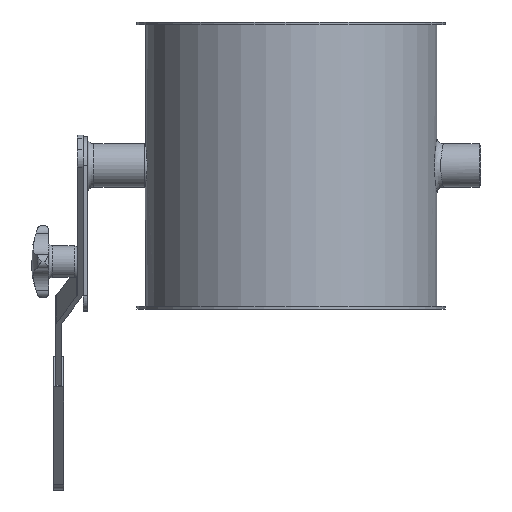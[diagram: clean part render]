
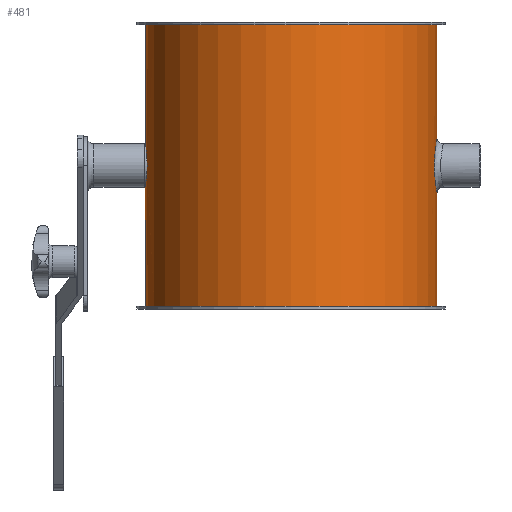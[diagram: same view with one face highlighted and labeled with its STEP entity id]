
A CAD part, front view. The second image highlights one B-rep face of the part: STEP entity #481.
In plain terms, the highlighted cylindrical face has radius 101.5 mm (diameter 203 mm), a full revolution.
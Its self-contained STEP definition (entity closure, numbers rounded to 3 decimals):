
#344=CARTESIAN_POINT('',(99.768,18.672,100.));
#345=VERTEX_POINT('',#344);
#355=CARTESIAN_POINT('',(99.768,18.673,100.));
#356=CARTESIAN_POINT('',(99.768,18.673,100.));
#357=CARTESIAN_POINT('',(99.768,18.673,100.));
#358=CARTESIAN_POINT('',(99.768,18.673,100.));
#359=CARTESIAN_POINT('',(99.768,18.672,101.09));
#360=CARTESIAN_POINT('',(99.801,18.496,103.28));
#361=CARTESIAN_POINT('',(99.929,17.798,106.104));
#362=CARTESIAN_POINT('',(100.228,16.072,110.479));
#363=CARTESIAN_POINT('',(100.61,13.622,113.698));
#364=CARTESIAN_POINT('',(101.108,9.17,117.206));
#365=CARTESIAN_POINT('',(101.341,6.255,118.583));
#366=CARTESIAN_POINT('',(101.502,1.788,119.516));
#367=CARTESIAN_POINT('',(101.518,-1.034,119.604));
#368=CARTESIAN_POINT('',(101.36,-6.22,118.692));
#369=CARTESIAN_POINT('',(100.86,-12.03,115.771));
#370=CARTESIAN_POINT('',(100.116,-16.783,109.563));
#371=CARTESIAN_POINT('',(99.756,-18.738,102.978));
#372=CARTESIAN_POINT('',(99.755,-18.743,98.787));
#373=CARTESIAN_POINT('',(99.841,-18.276,95.907));
#374=CARTESIAN_POINT('',(99.924,-17.822,93.998));
#375=CARTESIAN_POINT('',(100.146,-16.554,90.613));
#376=CARTESIAN_POINT('',(100.464,-14.551,87.55));
#377=CARTESIAN_POINT('',(100.809,-11.888,84.867));
#378=CARTESIAN_POINT('',(101.1,-9.212,82.879));
#379=CARTESIAN_POINT('',(101.309,-6.431,81.61));
#380=CARTESIAN_POINT('',(101.527,-1.923,80.339));
#381=CARTESIAN_POINT('',(101.527,2.141,80.337));
#382=CARTESIAN_POINT('',(101.249,7.535,81.965));
#383=CARTESIAN_POINT('',(100.788,12.481,84.816));
#384=CARTESIAN_POINT('',(100.161,16.5,90.076));
#385=CARTESIAN_POINT('',(99.828,18.352,95.605));
#386=CARTESIAN_POINT('',(99.767,18.673,98.548));
#387=CARTESIAN_POINT('',(99.768,18.673,100.));
#388=B_SPLINE_CURVE_WITH_KNOTS('',3,(#355,#356,#357,#358,#359,#360,#361,#362,#363,#364,#365,#366,#367,#368,#369,#370,#371,#372,#373,#374,#375,#376,#377,#378,#379,#380,#381,#382,#383,#384,#385,#386,#387),.UNSPECIFIED.,.T.,.U.,(4,3,1,1,1,1,1,1,1,1,1,1,1,1,1,1,1,1,1,1,1,1,1,1,1,1,1,1,4),(-9.055,-9.055,-8.812,-8.57,-8.408,-7.761,-7.68,-7.114,-7.034,-6.629,-6.468,-5.821,-5.174,-4.743,-4.312,-4.258,-4.096,-3.881,-3.449,-3.288,-3.018,-2.695,-2.587,-1.94,-1.779,-1.294,-0.647,-0.323,0.),.UNSPECIFIED.);
#389=EDGE_CURVE('',#345,#345,#388,.T.);
#394=CARTESIAN_POINT('',(0.0,0.0,0.0));
#395=DIRECTION('',(0.0,0.0,1.0));
#396=DIRECTION('',(-1.0,0.0,0.0));
#397=AXIS2_PLACEMENT_3D('',#394,#395,#396);
#398=CYLINDRICAL_SURFACE('',#397,101.5);
#399=CARTESIAN_POINT('',(101.5,0.,198.0));
#400=VERTEX_POINT('',#399);
#401=CARTESIAN_POINT('',(0.0,0.0,198.0));
#402=DIRECTION('',(0.0,0.0,-1.0));
#403=DIRECTION('',(-1.0,0.0,0.0));
#404=AXIS2_PLACEMENT_3D('',#401,#402,#403);
#405=CIRCLE('',#404,101.5);
#406=EDGE_CURVE('',#400,#400,#405,.T.);
#407=ORIENTED_EDGE('',*,*,#406,.T.);
#408=EDGE_LOOP('',(#407));
#409=FACE_OUTER_BOUND('',#408,.T.);
#410=CARTESIAN_POINT('',(-101.5,0.,2.0));
#411=VERTEX_POINT('',#410);
#412=CARTESIAN_POINT('',(0.0,0.0,2.0));
#413=DIRECTION('',(0.0,0.0,1.0));
#414=DIRECTION('',(-1.0,0.0,0.0));
#415=AXIS2_PLACEMENT_3D('',#412,#413,#414);
#416=CIRCLE('',#415,101.5);
#417=EDGE_CURVE('',#411,#411,#416,.T.);
#418=ORIENTED_EDGE('',*,*,#417,.T.);
#419=EDGE_LOOP('',(#418));
#420=FACE_BOUND('',#419,.T.);
#421=CARTESIAN_POINT('',(-100.386,15.0,100.));
#422=VERTEX_POINT('',#421);
#423=CARTESIAN_POINT('',(-100.386,15.0,100.));
#424=CARTESIAN_POINT('',(-100.386,15.0,100.943));
#425=CARTESIAN_POINT('',(-100.399,14.91,101.918));
#426=CARTESIAN_POINT('',(-100.455,14.529,103.857));
#427=CARTESIAN_POINT('',(-100.497,14.24,104.82));
#428=CARTESIAN_POINT('',(-100.655,13.091,107.592));
#429=CARTESIAN_POINT('',(-100.805,11.937,109.276));
#430=CARTESIAN_POINT('',(-101.084,9.276,111.937));
#431=CARTESIAN_POINT('',(-101.233,7.592,113.091));
#432=CARTESIAN_POINT('',(-101.39,4.82,114.24));
#433=CARTESIAN_POINT('',(-101.431,3.857,114.529));
#434=CARTESIAN_POINT('',(-101.487,1.918,114.91));
#435=CARTESIAN_POINT('',(-101.5,0.943,115.0));
#436=CARTESIAN_POINT('',(-101.5,-0.943,115.0));
#437=CARTESIAN_POINT('',(-101.487,-1.918,114.91));
#438=CARTESIAN_POINT('',(-101.431,-3.857,114.529));
#439=CARTESIAN_POINT('',(-101.39,-4.82,114.24));
#440=CARTESIAN_POINT('',(-101.233,-7.592,113.091));
#441=CARTESIAN_POINT('',(-101.084,-9.276,111.937));
#442=CARTESIAN_POINT('',(-100.805,-11.937,109.276));
#443=CARTESIAN_POINT('',(-100.655,-13.091,107.592));
#444=CARTESIAN_POINT('',(-100.497,-14.24,104.82));
#445=CARTESIAN_POINT('',(-100.455,-14.529,103.857));
#446=CARTESIAN_POINT('',(-100.399,-14.91,101.918));
#447=CARTESIAN_POINT('',(-100.386,-15.0,100.943));
#448=CARTESIAN_POINT('',(-100.386,-15.0,99.057));
#449=CARTESIAN_POINT('',(-100.399,-14.91,98.082));
#450=CARTESIAN_POINT('',(-100.455,-14.529,96.143));
#451=CARTESIAN_POINT('',(-100.497,-14.24,95.18));
#452=CARTESIAN_POINT('',(-100.655,-13.091,92.408));
#453=CARTESIAN_POINT('',(-100.805,-11.937,90.724));
#454=CARTESIAN_POINT('',(-101.084,-9.276,88.063));
#455=CARTESIAN_POINT('',(-101.233,-7.592,86.909));
#456=CARTESIAN_POINT('',(-101.39,-4.82,85.76));
#457=CARTESIAN_POINT('',(-101.431,-3.857,85.471));
#458=CARTESIAN_POINT('',(-101.487,-1.918,85.09));
#459=CARTESIAN_POINT('',(-101.5,-0.943,85.0));
#460=CARTESIAN_POINT('',(-101.5,0.943,85.0));
#461=CARTESIAN_POINT('',(-101.487,1.918,85.09));
#462=CARTESIAN_POINT('',(-101.431,3.857,85.471));
#463=CARTESIAN_POINT('',(-101.39,4.82,85.76));
#464=CARTESIAN_POINT('',(-101.233,7.592,86.909));
#465=CARTESIAN_POINT('',(-101.084,9.276,88.063));
#466=CARTESIAN_POINT('',(-100.805,11.937,90.724));
#467=CARTESIAN_POINT('',(-100.655,13.091,92.408));
#468=CARTESIAN_POINT('',(-100.497,14.24,95.18));
#469=CARTESIAN_POINT('',(-100.455,14.529,96.143));
#470=CARTESIAN_POINT('',(-100.399,14.91,98.082));
#471=CARTESIAN_POINT('',(-100.386,15.0,99.057));
#472=CARTESIAN_POINT('',(-100.386,15.0,100.0));
#473=B_SPLINE_CURVE_WITH_KNOTS('',3,(#423,#424,#425,#426,#427,#428,#429,#430,#431,#432,#433,#434,#435,#436,#437,#438,#439,#440,#441,#442,#443,#444,#445,#446,#447,#448,#449,#450,#451,#452,#453,#454,#455,#456,#457,#458,#459,#460,#461,#462,#463,#464,#465,#466,#467,#468,#469,#470,#471,#472),.UNSPECIFIED.,.T.,.U.,(4,2,2,2,2,2,2,2,2,2,2,2,2,2,2,2,2,2,2,2,2,2,2,2,4),(0.0,0.283,0.566,1.132,1.698,1.981,2.264,2.547,2.83,3.396,3.961,4.244,4.527,4.81,5.093,5.659,6.225,6.508,6.791,7.074,7.357,7.923,8.489,8.772,9.055),.UNSPECIFIED.);
#474=EDGE_CURVE('',#422,#422,#473,.T.);
#475=ORIENTED_EDGE('',*,*,#474,.T.);
#476=EDGE_LOOP('',(#475));
#477=FACE_BOUND('',#476,.T.);
#478=ORIENTED_EDGE('',*,*,#389,.F.);
#479=EDGE_LOOP('',(#478));
#480=FACE_BOUND('',#479,.T.);
#481=ADVANCED_FACE('',(#409,#420,#477,#480),#398,.T.);
